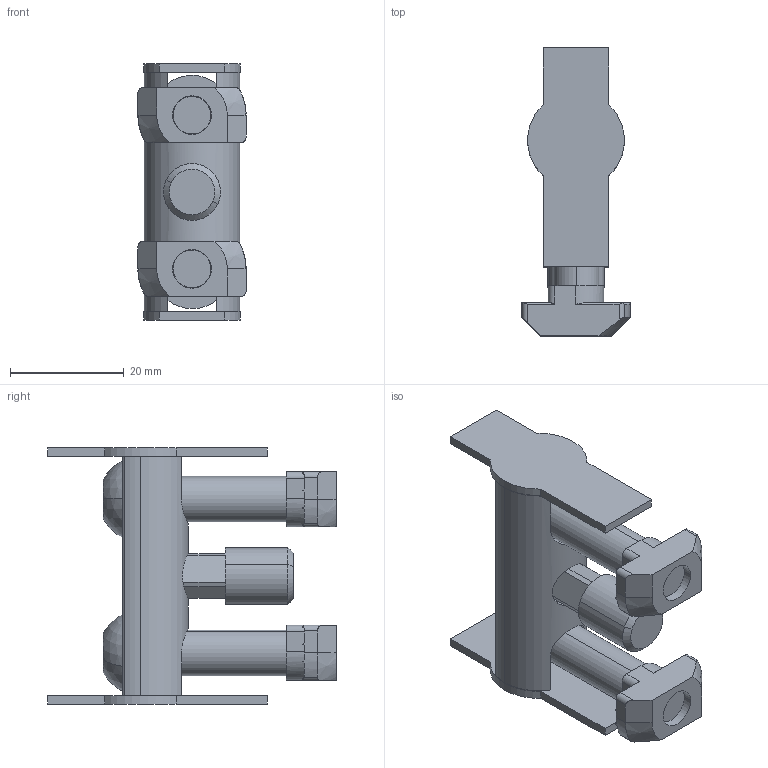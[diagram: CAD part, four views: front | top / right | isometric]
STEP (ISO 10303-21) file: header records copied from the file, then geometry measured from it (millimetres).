
FILE_DESCRIPTION (( 'STEP AP203' ), '1' );
FILE_NAME ('322021_Bolzenverbinder-Satz Ø17x45.step', '2018-11-27T10:45:46', ( '' ), ( '' ), 'SwSTEP 2.0', 'SolidWorks 2017', '' );
FILE_SCHEMA (( 'CONFIG_CONTROL_DESIGN' ));
Length unit declared in the file: millimetre
Products named in the file (6): 999480 Bolzen Ø17x45; 999510 Abdeckkappe für Bolzenverbinder Ø17; ISO 7380 - M8 x 35 - 35C_ISO 7380 - M8 x 35 - 35C; 342040 Hammermutter Nut 10 M8; 322021_Bolzenverbinder-Satz Ø17x45; 999479 Fixierbolzen
Assembly tree (8 placements, depth 2):
  322021_Bolzenverbinder-Satz Ø17x45
    999480 Bolzen Ø17x45
    342040 Hammermutter Nut 10 M8  x2
    999479 Fixierbolzen
    999510 Abdeckkappe für Bolzenverbinder Ø17  x2
    ISO 7380 - M8 x 35 - 35C_ISO 7380 - M8 x 35 - 35C  x2
Bounding box: 19 x 50.64 x 45 mm (x, y, z)
Volume: 13114.3 mm3; surface area: 10066.6 mm2
Topology: 8 solids, 8 shells, 229 faces, 596 edges, 384 vertices
Faces by surface type: plane 136, cylinder 69, cone 14, torus 6, sphere 4
Entity records: 5050 total; most frequent: CARTESIAN_POINT 1061, ORIENTED_EDGE 696, DIRECTION 688, EDGE_CURVE 348, AXIS2_PLACEMENT_3D 241, VERTEX_POINT 226, LINE 206, VECTOR 206
